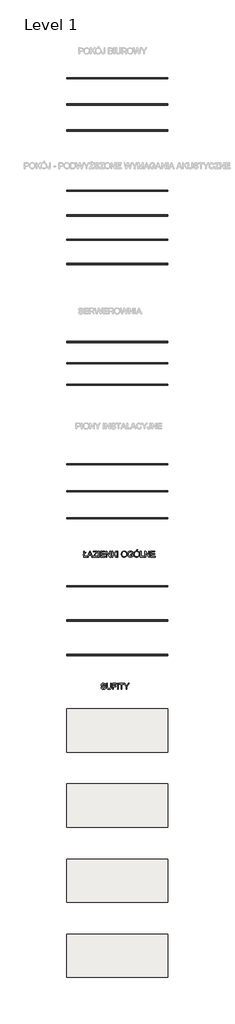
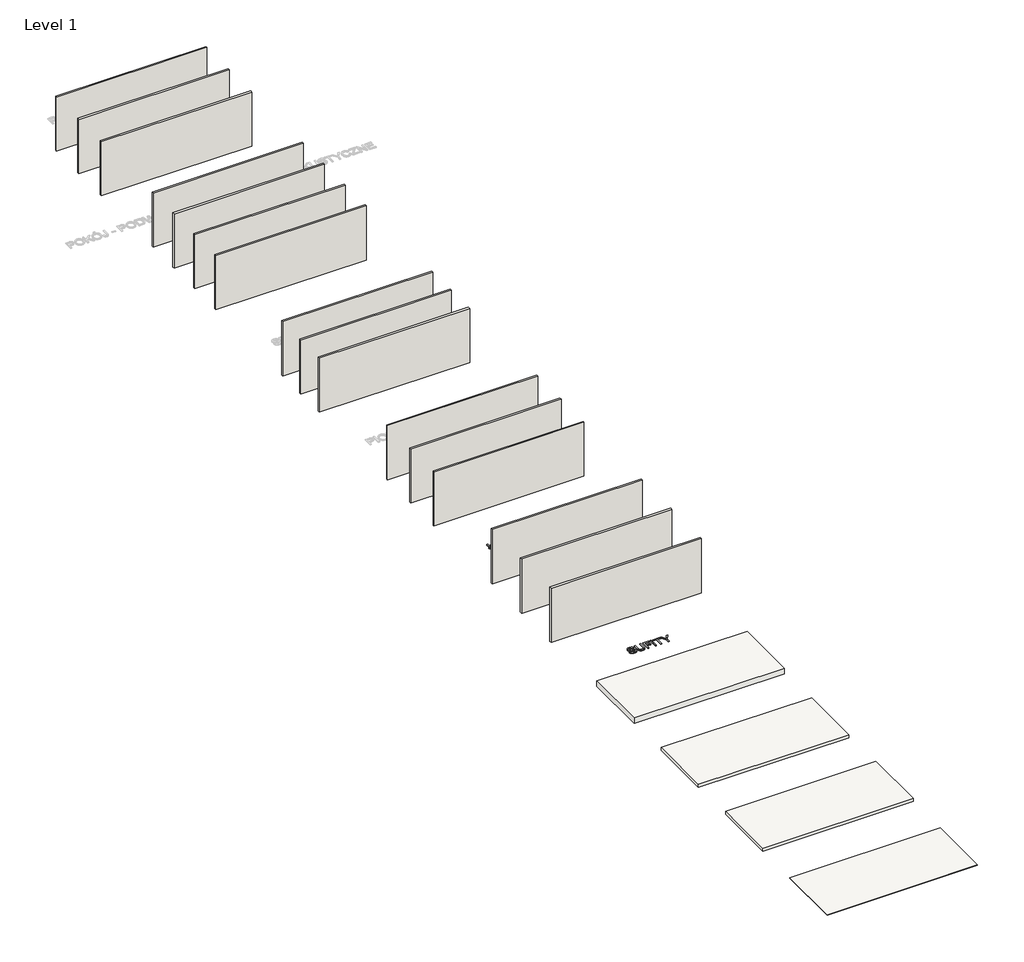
# One storey, part 1 of 4: 16 walls, 4 coverings, 2 proxies.
"""IFC4 building model written with IfcOpenShell, lengths in millimetres."""

from ifc_helpers import new_model, si_unit, frame, origin, origin_with_axes, place, context, project, spatial, polyline, outline, extrude, element, save

model = new_model("IFC4")

# Units and contexts
model_context = context("Model", 3, world=origin())
ifc_project = project(units=[si_unit("LENGTHUNIT", "METRE", prefix="MILLI")], contexts=[model_context])

# Site, building, storey
site = spatial("IfcSite", under=ifc_project)
building = spatial("IfcBuilding", under=site)
storey = spatial("IfcBuildingStorey", under=building, Name="Level 1", Elevation=0.0)

# Proxies
placement = place(None, origin())
element("IfcBuildingElementProxy", 1, Name="600mm Arial", ObjectType="600mm Arial", at=placement, inside=storey, context=model_context, shape_type="SweptSolid", body=[
    extrude(outline(polyline([(-1005.5162007, -41777.1640933), (-1071.4406543, -41832.052087), (-1071.4406543, -41756.7098544), (-1005.5162007, -41701.8218607), (-1005.5162007, -41412.9609181), (-930.1739681, -41412.9609181), (-930.1739681, -41638.987616), (-788.907282, -41521.2653775), (-788.907282, -41596.6076101), (-930.1739681, -41714.3298486), (-930.1739681, -41940.3565464), (-628.8050377, -41940.3565464), (-628.8050377, -42015.698779), (-1005.5162007, -42015.698779), (-1005.5162007, -41777.1640933)])), origin_with_axes(), (0.0, 0.0, 1.0), 50.0),
    extrude(outline(polyline([(-623.6546897, -42015.698779), (-383.0598649, -41412.9609181), (-318.9012449, -41412.9609181), (-78.3064201, -42015.698779), (-157.9160838, -42015.698779), (-226.9307461, -41827.3431975), (-475.1775165, -41827.3431975), (-544.045026, -42015.698779), (-623.6546897, -42015.698779)]), holes=[polyline([(-447.5127904, -41752.0009649), (-254.4483194, -41752.0009649), (-308.7477019, -41603.8180972), (-350.9805549, -41488.3031507), (-388.5045184, -41590.868651), (-447.5127904, -41752.0009649)])]), origin_with_axes(), (0.0, 0.0, 1.0), 50.0),
    extrude(outline(polyline([(-44.9027349, -42015.698779), (-44.9027349, -41937.5606432), (263.382377, -41560.1137162), (321.9491907, -41488.3031507), (-7.2316186, -41488.3031507), (-7.2316186, -41412.9609181), (416.5684398, -41412.9609181), (416.5684398, -41488.3031507), (79.1470739, -41901.3610549), (47.3620695, -41940.3565464), (425.9862189, -41940.3565464), (425.9862189, -42015.698779), (-44.9027349, -42015.698779)])), origin_with_axes(), (0.0, 0.0, 1.0), 50.0),
    extrude(outline(polyline([(520.1640097, -42015.698779), (520.1640097, -41412.9609181), (595.5062423, -41412.9609181), (595.5062423, -42015.698779), (520.1640097, -42015.698779)])), origin_with_axes(), (0.0, 0.0, 1.0), 50.0),
    extrude(outline(polyline([(746.1907075, -42015.698779), (746.1907075, -41412.9609181), (1179.408545, -41412.9609181), (1179.408545, -41488.3031507), (821.5329401, -41488.3031507), (821.5329401, -41667.2409532), (1160.5729869, -41667.2409532), (1160.5729869, -41742.5831858), (821.5329401, -41742.5831858), (821.5329401, -41940.3565464), (1188.8263241, -41940.3565464), (1188.8263241, -42015.698779), (746.1907075, -42015.698779)])), origin_with_axes(), (0.0, 0.0, 1.0), 50.0),
    extrude(outline(polyline([(1301.839673, -42015.698779), (1301.839673, -41412.9609181), (1382.4794064, -41412.9609181), (1697.3863942, -41890.4717479), (1697.3863942, -41412.9609181), (1772.7286269, -41412.9609181), (1772.7286269, -42015.698779), (1692.0888935, -42015.698779), (1377.1819056, -41538.0407965), (1377.1819056, -42015.698779), (1301.839673, -42015.698779)])), origin_with_axes(), (0.0, 0.0, 1.0), 50.0),
    extrude(outline(polyline([(1904.5775339, -42015.698779), (1904.5775339, -41412.9609181), (1979.9197665, -41412.9609181), (1979.9197665, -41708.0022782), (2288.9406425, -41412.9609181), (2394.3020459, -41412.9609181), (2134.8716629, -41660.7662301), (2403.719825, -42015.698779), (2311.6021734, -42015.698779), (2081.4551972, -41711.6810982), (1979.9197665, -41808.5076393), (1979.9197665, -42015.698779), (1904.5775339, -42015.698779)])), origin_with_axes(), (0.0, 0.0, 1.0), 50.0),
    extrude(outline(polyline([(2469.6442785, -42015.698779), (2469.6442785, -41412.9609181), (2544.9865111, -41412.9609181), (2544.9865111, -42015.698779), (2469.6442785, -42015.698779)])), origin_with_axes(), (0.0, 0.0, 1.0), 50.0),
    extrude(outline(polyline([(2902.862116, -41722.2760997), (2907.8837053, -41651.5783772), (2922.948473, -41588.9924528), (2948.0564191, -41534.5183264), (2964.3765842, -41510.3231874), (2983.2075438, -41488.1559979), (3026.2957225, -41451.1378722), (3075.2148308, -41424.6963538), (3129.9648687, -41408.8314427), (3190.5458363, -41403.543139), (3231.0956292, -41406.0263425), (3269.603677, -41413.4759529), (3306.0699798, -41425.8919702), (3340.4945375, -41443.2743945), (3371.9116599, -41465.0989939), (3399.3556567, -41490.8415365), (3422.826528, -41520.5020224), (3442.3242738, -41554.0804515), (3457.6465589, -41590.8134687), (3468.5910482, -41629.9377189), (3475.1577418, -41671.453202), (3477.3466397, -41715.3599182), (3475.0427787, -41759.8460484), (3468.1311957, -41801.9225516), (3456.6118908, -41841.5894277), (3440.4848638, -41878.8466768), (3420.1317924, -41912.7102145), (3395.9343542, -41942.1959564), (3367.8925491, -41967.3039025), (3336.0063772, -41988.034053), (3301.5312357, -42004.257649), (3265.722522, -42015.8459318), (3228.580236, -42022.7989015), (3190.1043779, -42025.1165581), (3148.8464121, -42022.5551797), (3109.8325265, -42014.8710445), (3073.0627211, -42002.0641526), (3038.5369959, -41984.1345038), (3007.1566617, -41961.7764756), (2979.8230294, -41935.6844451), (2956.5360991, -41905.8584123), (2937.2958708, -41872.2983773), (2922.2311031, -41836.3517078), (2911.4705547, -41799.3657718), (2905.0142257, -41761.340569), (2902.862116, -41722.2760997)]), holes=[polyline([(2978.2043486, -41723.0118637), (2981.9705406, -41772.9610415), (2993.2691164, -41817.300019), (3012.100076, -41856.0287961), (3038.4634195, -41889.1473727), (3070.5105398, -41915.6716645), (3106.3928299, -41934.6175873), (3146.1102898, -41945.9851409), (3189.6629195, -41949.7743255), (3233.9605102, -41945.9483527), (3274.1470197, -41934.4704345), (3310.2224478, -41915.3405707), (3342.1867947, -41888.5587615), (3368.3570001, -41854.7412091), (3387.050004, -41814.5041159), (3398.2658063, -41767.8474818), (3402.0044071, -41714.771307), (3400.4041204, -41680.291567), (3395.6032604, -41648.0743012), (3387.601827, -41618.1195098), (3376.3998202, -41590.4271926), (3362.1214003, -41565.3606331), (3344.8907273, -41543.2831149), (3324.7078014, -41524.1946379), (3301.5726224, -41508.0952021), (3276.2025603, -41495.3159013), (3249.314985, -41486.1878293), (3220.9098964, -41480.7109861), (3190.9872947, -41478.8853717), (3148.9475797, -41482.4032432), (3109.9428911, -41492.956858), (3073.973229, -41510.5462159), (3041.0385934, -41535.1713169), (3013.5486113, -41568.0185806), (2993.9129098, -41610.2744262), (2982.1314889, -41661.9388539), (2978.2043486, -41723.0118637)])]), origin_with_axes(), (0.0, 0.0, 1.0), 50.0),
    extrude(outline(polyline([(3863.4755818, -41780.2543021), (3863.4755818, -41704.9120695), (4108.3378378, -41704.9120695), (4108.3378378, -41930.2030033), (4048.8329251, -41971.5897278), (3987.4518142, -42001.2778048), (3924.3416579, -42019.1568698), (3859.6496091, -42025.1165581), (3816.3728909, -42022.7483177), (3775.1287207, -42015.6435967), (3735.9170985, -42003.802395), (3698.7380244, -41987.2247126), (3664.7917133, -41966.1588698), (3635.2783802, -41940.8531871), (3610.1980252, -41911.3076644), (3589.5506482, -41877.5223016), (3573.4236213, -41840.5777523), (3561.9043163, -41801.5546696), (3554.9927333, -41760.4530537), (3552.6888723, -41717.2729045), (3554.9835363, -41674.0881568), (3561.8675281, -41632.3841341), (3573.3408478, -41592.1608365), (3589.4034954, -41553.4182639), (3609.7703624, -41517.8578705), (3634.1563401, -41487.1811106), (3662.5614287, -41461.3879843), (3694.9856281, -41440.4784914), (3730.7253639, -41424.3192747), (3769.0770619, -41412.7769771), (3810.040722, -41405.8515986), (3853.6163444, -41403.543139), (3915.678037, -41408.8958221), (3971.4857356, -41424.9538712), (3996.4051423, -41436.7077009), (4018.4826605, -41450.558458), (4037.7182903, -41466.5061425), (4054.1120317, -41484.5507544), (4080.4707767, -41528.5678351), (4099.6558227, -41584.2467751), (4030.1997021, -41603.8180972), (4014.693476, -41564.1052358), (3995.8395237, -41534.1412473), (3970.8971244, -41511.5532928), (3937.1255573, -41493.9685335), (3896.8608729, -41482.6561621), (3852.439122, -41478.8853717), (3800.439002, -41482.9504677), (3755.9804629, -41495.1457558), (3719.2290515, -41513.9445258), (3690.3503149, -41537.8200673), (3668.1854247, -41565.5399756), (3651.5755526, -41595.8718461), (3633.9172169, -41652.7464026), (3628.0311049, -41714.1826958), (3629.801537, -41751.8032283), (3635.1128333, -41786.2323845), (3643.9649938, -41817.4701644), (3656.3580186, -41845.516568), (3672.1309591, -41870.2658293), (3691.1228671, -41891.612182), (3713.3337426, -41909.5556264), (3738.7635855, -41924.0961622), (3766.2213779, -41935.3303586), (3794.5161018, -41943.3547847), (3823.6477573, -41948.1694403), (3853.6163444, -41949.7743255), (3905.8004054, -41944.9366772), (3956.6968794, -41930.4237325), (4000.8979011, -41910.4293461), (4032.9956052, -41889.1473727), (4032.9956052, -41780.2543021), (3863.4755818, -41780.2543021)])), origin_with_axes(), (0.0, 0.0, 1.0), 50.0),
    extrude(outline(polyline([(4202.5156286, -41722.2760997), (4207.5372178, -41651.5783772), (4222.6019855, -41588.9924528), (4247.7099317, -41534.5183264), (4264.0300967, -41510.3231874), (4282.8610563, -41488.1559979), (4325.949235, -41451.1378722), (4374.8683433, -41424.6963538), (4429.6183813, -41408.8314427), (4490.1993488, -41403.543139), (4530.7491417, -41406.0263425), (4569.2571896, -41413.4759529), (4605.7234924, -41425.8919702), (4640.1480501, -41443.2743945), (4671.5651724, -41465.0989939), (4699.0091693, -41490.8415365), (4722.4800406, -41520.5020224), (4741.9777863, -41554.0804515), (4757.3000714, -41590.8134687), (4768.2445608, -41629.9377189), (4774.8112544, -41671.453202), (4777.0001523, -41715.3599182), (4774.6962913, -41759.8460484), (4767.7847083, -41801.9225516), (4756.2654033, -41841.5894277), (4740.1383763, -41878.8466768), (4719.785305, -41912.7102145), (4695.5878667, -41942.1959564), (4667.5460617, -41967.3039025), (4635.6598897, -41988.034053), (4601.1847482, -42004.257649), (4565.3760345, -42015.8459318), (4528.2337486, -42022.7989015), (4489.7578904, -42025.1165581), (4448.4999247, -42022.5551797), (4409.4860391, -42014.8710445), (4372.7162337, -42002.0641526), (4338.1905084, -41984.1345038), (4306.8101742, -41961.7764756), (4279.476542, -41935.6844451), (4256.1896117, -41905.8584123), (4236.9493833, -41872.2983773), (4221.8846156, -41836.3517078), (4211.1240673, -41799.3657718), (4204.6677383, -41761.340569), (4202.5156286, -41722.2760997)]), holes=[polyline([(4277.8578612, -41723.0118637), (4281.6240531, -41772.9610415), (4292.9226289, -41817.300019), (4311.7535885, -41856.0287961), (4338.116932, -41889.1473727), (4370.1640523, -41915.6716645), (4406.0463424, -41934.6175873), (4445.7638023, -41945.9851409), (4489.316432, -41949.7743255), (4533.6140228, -41945.9483527), (4573.8005322, -41934.4704345), (4609.8759604, -41915.3405707), (4641.8403072, -41888.5587615), (4668.0105127, -41854.7412091), (4686.7035166, -41814.5041159), (4697.9193189, -41767.8474818), (4701.6579197, -41714.771307), (4700.057633, -41680.291567), (4695.2567729, -41648.0743012), (4687.2553395, -41618.1195098), (4676.0533328, -41590.4271926), (4661.7749129, -41565.3606331), (4644.5442399, -41543.2831149), (4624.3613139, -41524.1946379), (4601.226135, -41508.0952021), (4575.8560729, -41495.3159013), (4548.9684976, -41486.1878293), (4520.563409, -41480.7109861), (4490.6408072, -41478.8853717), (4448.6010922, -41482.4032432), (4409.5964037, -41492.956858), (4373.6267416, -41510.5462159), (4340.692106, -41535.1713169), (4313.2021239, -41568.0185806), (4293.5664224, -41610.2744262), (4281.7850015, -41661.9388539), (4277.8578612, -41723.0118637)])]), origin_with_axes(), (0.0, 0.0, 1.0), 50.0),
    extrude(outline(polyline([(4437.9601055, -41375.2898018), (4494.46678, -41262.2764529), (4588.6445707, -41262.2764529), (4494.46678, -41375.2898018), (4437.9601055, -41375.2898018)])), origin_with_axes(), (0.0, 0.0, 1.0), 50.0),
    extrude(outline(polyline([(4880.5957221, -42015.698779), (4880.5957221, -41412.9609181), (4955.9379547, -41412.9609181), (4955.9379547, -41940.3565464), (5257.3068852, -41940.3565464), (5257.3068852, -42015.698779), (4880.5957221, -42015.698779)])), origin_with_axes(), (0.0, 0.0, 1.0), 50.0),
    extrude(outline(polyline([(5342.0668969, -42015.698779), (5342.0668969, -41412.9609181), (5422.7066302, -41412.9609181), (5737.6136181, -41890.4717479), (5737.6136181, -41412.9609181), (5812.9558507, -41412.9609181), (5812.9558507, -42015.698779), (5732.3161173, -42015.698779), (5417.4091295, -41538.0407965), (5417.4091295, -42015.698779), (5342.0668969, -42015.698779)])), origin_with_axes(), (0.0, 0.0, 1.0), 50.0),
    extrude(outline(polyline([(5944.8047578, -42015.698779), (5944.8047578, -41412.9609181), (6378.0225953, -41412.9609181), (6378.0225953, -41488.3031507), (6020.1469904, -41488.3031507), (6020.1469904, -41667.2409532), (6359.1870371, -41667.2409532), (6359.1870371, -41742.5831858), (6020.1469904, -41742.5831858), (6020.1469904, -41940.3565464), (6387.4403744, -41940.3565464), (6387.4403744, -42015.698779), (5944.8047578, -42015.698779)])), origin_with_axes(), (0.0, 0.0, 1.0), 50.0),
])
element("IfcBuildingElementProxy", 2, Name="600mm Arial", ObjectType="600mm Arial", at=placement, inside=storey, context=model_context, shape_type="SweptSolid", body=[
    extrude(outline(polyline([(791.1401121, -55524.2193168), (866.4823447, -55524.2193168), (875.1275716, -55566.0291055), (890.7625564, -55599.6351258), (915.1531327, -55626.3065704), (950.065134, -55647.3126324), (992.7394455, -55660.9426603), (1040.4169521, -55665.4860029), (1082.3922877, -55662.0463063), (1119.143699, -55651.7272163), (1148.9237465, -55635.3932557), (1169.9849908, -55613.9089472), (1182.5113727, -55589.2424594), (1186.6868333, -55563.3619611), (1183.5598364, -55538.1436503), (1174.1788455, -55516.3466421), (1155.1225582, -55497.7502072), (1122.9696718, -55482.1336165), (1013.2672608, -55453.3652445), (941.2543603, -55434.3273513), (895.1771404, -55416.209163), (857.671571, -55390.8620935), (831.0920968, -55360.1439469), (815.2547769, -55324.7169108), (809.9756703, -55285.2431727), (811.6081466, -55262.8069695), (816.5055757, -55241.1157274), (824.6679575, -55220.1694463), (836.0952919, -55199.9681262), (850.6588204, -55181.3349032), (868.2297842, -55165.0929131), (888.8081833, -55151.242156), (912.3940177, -55139.7826318), (965.4058132, -55124.3867703), (1024.0829915, -55119.2548165), (1087.6530002, -55124.6258936), (1143.2767579, -55140.739125), (1167.6121519, -55152.7412751), (1188.9677017, -55167.2634169), (1207.3434074, -55184.3055503), (1222.7392689, -55203.8676754), (1235.0357246, -55225.379575), (1244.1132128, -55248.2710322), (1249.9717336, -55272.5420468), (1252.6112869, -55298.1926189), (1177.2690543, -55298.1926189), (1172.2290709, -55274.1515306), (1163.4366912, -55253.2374391), (1150.8919152, -55235.4503447), (1134.5947428, -55220.7902472), (1114.2416714, -55209.330723), (1089.5291984, -55201.1453486), (1060.4573237, -55196.234124), (1027.0260474, -55194.5970491), (992.5279133, -55196.2157299), (963.0513685, -55201.0717722), (938.5964128, -55209.1651761), (919.1630464, -55220.4959416), (904.3557961, -55234.1167724), (893.7791888, -55249.0803726), (887.4332244, -55265.386742), (885.3179029, -55283.0358807), (886.817022, -55298.2202101), (891.3143794, -55311.9881938), (898.8099751, -55324.3398318), (909.303809, -55335.2751241), (925.8217106, -55345.6310022), (951.8309676, -55356.097245), (1032.3235482, -55377.3608243), (1115.3913027, -55397.5575458), (1165.6439832, -55415.1790934), (1208.5942062, -55442.5127257), (1225.1994797, -55458.5799718), (1238.5581947, -55476.2475046), (1248.8267008, -55495.4233536), (1256.1613481, -55516.0155483), (1262.029066, -55561.4489747), (1260.3414073, -55585.016415), (1255.2784313, -55607.8940766), (1246.8401381, -55630.0819594), (1235.0265275, -55651.5800635), (1220.0445333, -55671.5560558), (1202.1010889, -55689.1776034), (1181.1961946, -55704.4447062), (1157.3298501, -55717.3573642), (1131.1964329, -55727.6258704), (1103.4903201, -55734.9605177), (1043.360008, -55740.8282355), (1004.8197705, -55739.246343), (969.5444857, -55734.5006652), (937.5341536, -55726.5912023), (908.7887742, -55715.5179543), (883.1336035, -55701.262527), (860.3938977, -55683.8065263), (840.5696567, -55663.1499523), (823.6608805, -55639.2928049), (810.0400496, -55613.0076363), (800.0796446, -55585.0669988), (793.7796654, -55555.4708923), (791.1401121, -55524.2193168)])), origin_with_axes(), (0.0, 0.0, 1.0), 50.0),
    extrude(outline(polyline([(1770.5891361, -55128.6725956), (1845.9313687, -55128.6725956), (1845.9313687, -55476.3946574), (1840.817809, -55557.825337), (1834.4258593, -55591.5187293), (1825.4771298, -55620.5308231), (1813.1990682, -55645.960666), (1796.8191223, -55668.9073055), (1776.3372923, -55689.3707415), (1751.7535779, -55707.350974), (1723.0403882, -55721.9972759), (1690.1701319, -55732.4589202), (1653.1428091, -55738.7359067), (1611.9584198, -55740.8282355), (1571.7903044, -55739.0072197), (1535.4573589, -55733.544172), (1502.9595831, -55724.4390927), (1474.2969772, -55711.6919815), (1449.4649425, -55695.4913782), (1428.4588806, -55676.0258221), (1411.2787914, -55653.2953133), (1397.924675, -55627.2998518), (1387.9136862, -55597.1473238), (1380.7629799, -55561.9456154), (1376.4725561, -55521.6947266), (1375.0424149, -55476.3946574), (1375.0424149, -55128.6725956), (1450.3846475, -55128.6725956), (1450.3846475, -55473.745907), (1454.1002556, -55541.4545883), (1465.2470801, -55588.5986659), (1474.0118686, -55605.9764917), (1485.4438016, -55621.248193), (1499.5428791, -55634.4137699), (1516.309101, -55645.4732224), (1556.5553913, -55660.4828078), (1604.8950855, -55665.4860029), (1646.4197657, -55663.0119965), (1681.5249051, -55655.5899773), (1710.2105036, -55643.2199452), (1732.4765614, -55625.9019002), (1749.1508128, -55601.5481122), (1761.0609924, -55568.0708506), (1768.2071002, -55525.4701156), (1770.5891361, -55473.745907), (1770.5891361, -55128.6725956)])), origin_with_axes(), (0.0, 0.0, 1.0), 50.0),
    extrude(outline(polyline([(1977.7802758, -55731.4104565), (1977.7802758, -55128.6725956), (2382.7447761, -55128.6725956), (2382.7447761, -55204.0148282), (2053.1225084, -55204.0148282), (2053.1225084, -55382.9526306), (2335.6558807, -55382.9526306), (2335.6558807, -55458.2948632), (2053.1225084, -55458.2948632), (2053.1225084, -55731.4104565), (1977.7802758, -55731.4104565)])), origin_with_axes(), (0.0, 0.0, 1.0), 50.0),
    extrude(outline(polyline([(2495.758125, -55731.4104565), (2495.758125, -55128.6725956), (2571.1003576, -55128.6725956), (2571.1003576, -55731.4104565), (2495.758125, -55731.4104565)])), origin_with_axes(), (0.0, 0.0, 1.0), 50.0),
    extrude(outline(polyline([(2872.469288, -55731.4104565), (2872.469288, -55204.0148282), (2674.6959274, -55204.0148282), (2674.6959274, -55128.6725956), (3145.5848813, -55128.6725956), (3145.5848813, -55204.0148282), (2947.8115206, -55204.0148282), (2947.8115206, -55731.4104565), (2872.469288, -55731.4104565)])), origin_with_axes(), (0.0, 0.0, 1.0), 50.0),
    extrude(outline(polyline([(3399.8649163, -55731.4104565), (3399.8649163, -55476.1003518), (3164.4204394, -55128.6725956), (3253.3007294, -55128.6725956), (3378.969219, -55314.2322739), (3443.2749918, -55408.8515231), (3507.7279173, -55307.4632452), (3621.7713358, -55128.6725956), (3710.6516258, -55128.6725956), (3475.2071489, -55476.1003518), (3475.2071489, -55731.4104565), (3399.8649163, -55731.4104565)])), origin_with_axes(), (0.0, 0.0, 1.0), 50.0),
])

# Coverings
element("IfcCovering", 3, ObjectType="Nida Sufit DK/WO/CD60-12,5/SonicC12n0", at=placement, inside=storey, context=model_context, shape_type="SweptSolid", body=[
    extrude(outline(polyline([(7731.5007037, -57779.3575936), (7731.5007037, -62279.3575936), (-2768.4992963, -62279.3575936), (-2768.4992963, -57779.3575936), (7731.5007037, -57779.3575936)])), frame((0.0, 0.0, 100.0), z_axis=(0.0, 0.0, 1.0), x_axis=(1.0, 0.0, 0.0)), (0.0, 0.0, 1.0), 400.0),
])
element("IfcCovering", 4, ObjectType="Nida Sufit DK/WO/CD60-12,5/Expert", at=placement, inside=storey, context=model_context, shape_type="SweptSolid", body=[
    extrude(outline(polyline([(7731.5007037, -65567.3604116), (7731.5007037, -70067.3604116), (-2768.4992963, -70067.3604116), (-2768.4992963, -65567.3604116), (7731.5007037, -65567.3604116)])), frame((0.0, 0.0, 100.0), z_axis=(0.0, 0.0, 1.0), x_axis=(1.0, 0.0, 0.0)), (0.0, 0.0, 1.0), 222.5),
])
element("IfcCovering", 5, ObjectType="Nida Sufit DK/WO/CD60-25/Expert", at=placement, inside=storey, context=model_context, shape_type="SweptSolid", body=[
    extrude(outline(polyline([(7731.5007037, -73355.3632297), (7731.5007037, -77855.3632297), (-2768.4992963, -77855.3632297), (-2768.4992963, -73355.3632297), (7731.5007037, -73355.3632297)])), frame((0.0, 0.0, 100.0), z_axis=(0.0, 0.0, 1.0), x_axis=(1.0, 0.0, 0.0)), (0.0, 0.0, 1.0), 235.0),
])
element("IfcCovering", 6, ObjectType="NIDA Sufit C50/U50/500-25/Expert", at=placement, inside=storey, context=model_context, shape_type="SweptSolid", body=[
    extrude(outline(polyline([(7731.5007037, -81143.3660477), (7731.5007037, -85643.3660477), (-2768.4992963, -85643.3660477), (-2768.4992963, -81143.3660477), (7731.5007037, -81143.3660477)])), frame((0.0, 0.0, 100.0), z_axis=(0.0, 0.0, 1.0), x_axis=(1.0, 0.0, 0.0)), (0.0, 0.0, 1.0), 50.0),
])

# Walls
element("IfcWall", 7, ObjectType="Nida Ściana 100A50/Expert+Cicha", at=placement, inside=storey, context=model_context, shape_type="SweptSolid", body=[
    extrude(outline(polyline([(7731.5007037, 7614.6593754), (-2768.4992963, 7614.6593754), (-2768.4992963, 7714.6593754), (7731.5007037, 7714.6593754), (7731.5007037, 7614.6593754)])), origin_with_axes(), (0.0, 0.0, 1.0), 4000.0),
])
element("IfcWall", 8, ObjectType="Nida Ściana 150A100/Expert", at=placement, inside=storey, context=model_context, shape_type="SweptSolid", body=[
    extrude(outline(polyline([(7731.5007037, 4877.1593754), (-2768.4992963, 4877.1593754), (-2768.4992963, 5027.1593754), (7731.5007037, 5027.1593754), (7731.5007037, 4877.1593754)])), origin_with_axes(), (0.0, 0.0, 1.0), 4000.0),
])
element("IfcWall", 9, ObjectType="Nida Ściana 125A75/Expert", at=placement, inside=storey, context=model_context, shape_type="SweptSolid", body=[
    extrude(outline(polyline([(7731.5007037, 2177.1593754), (-2768.4992963, 2177.1593754), (-2768.4992963, 2302.1593754), (7731.5007037, 2302.1593754), (7731.5007037, 2177.1593754)])), origin_with_axes(), (0.0, 0.0, 1.0), 4000.0),
])
element("IfcWall", 10, ObjectType="Nida Ściana 125A75/Expert+Cicha", at=placement, inside=storey, context=model_context, shape_type="SweptSolid", body=[
    extrude(outline(polyline([(7731.5007037, -4085.3406246), (-2768.4992963, -4085.3406246), (-2768.4992963, -3960.3406246), (7731.5007037, -3960.3406246), (7731.5007037, -4085.3406246)])), origin_with_axes(), (0.0, 0.0, 1.0), 4000.0),
])
element("IfcWall", 11, ObjectType="Nida Ściana 155BB50/Expert", at=placement, inside=storey, context=model_context, shape_type="SweptSolid", body=[
    extrude(outline(polyline([(7731.5007037, -6634.5072913), (-2768.4992963, -6634.5072913), (-2768.4992963, -6479.5072913), (7731.5007037, -6479.5072913), (7731.5007037, -6634.5072913)])), origin_with_axes(), (0.0, 0.0, 1.0), 4000.0),
])
element("IfcWall", 12, ObjectType="Nida Ściana 125A75/Cicha", at=placement, inside=storey, context=model_context, shape_type="SweptSolid", body=[
    extrude(outline(polyline([(7731.5007037, -9153.6739579), (-2768.4992963, -9153.6739579), (-2768.4992963, -9028.6739579), (7731.5007037, -9028.6739579), (7731.5007037, -9153.6739579)])), origin_with_axes(), (0.0, 0.0, 1.0), 4000.0),
])
element("IfcWall", 13, ObjectType="Nida Ściana 150A100/Expert", at=placement, inside=storey, context=model_context, shape_type="SweptSolid", body=[
    extrude(outline(polyline([(7731.5007037, -11700.3406246), (-2768.4992963, -11700.3406246), (-2768.4992963, -11550.3406246), (7731.5007037, -11550.3406246), (7731.5007037, -11700.3406246)])), origin_with_axes(), (0.0, 0.0, 1.0), 4000.0),
])
element("IfcWall", 14, ObjectType="Nida Ściana 125AA75/Resistex", at=placement, inside=storey, context=model_context, shape_type="SweptSolid", body=[
    extrude(outline(polyline([(7731.5007037, -19762.8406246), (-2768.4992963, -19762.8406246), (-2768.4992963, -19637.8406246), (7731.5007037, -19637.8406246), (7731.5007037, -19762.8406246)])), origin_with_axes(), (0.0, 0.0, 1.0), 4000.0),
])
element("IfcWall", 15, ObjectType="Nida Ściana 125A75/Resistex", at=placement, inside=storey, context=model_context, shape_type="SweptSolid", body=[
    extrude(outline(polyline([(7731.5007037, -21975.3406246), (-2768.4992963, -21975.3406246), (-2768.4992963, -21850.3406246), (7731.5007037, -21850.3406246), (7731.5007037, -21975.3406246)])), origin_with_axes(), (0.0, 0.0, 1.0), 4000.0),
])
element("IfcWall", 16, ObjectType="Nida Ściana 125A75/Expert+Resistex", at=placement, inside=storey, context=model_context, shape_type="SweptSolid", body=[
    extrude(outline(polyline([(7731.5007037, -24187.8406246), (-2768.4992963, -24187.8406246), (-2768.4992963, -24062.8406246), (7731.5007037, -24062.8406246), (7731.5007037, -24187.8406246)])), origin_with_axes(), (0.0, 0.0, 1.0), 4000.0),
])
element("IfcWall", 17, ObjectType="Nida Szacht 95A50/Ogień+", at=placement, inside=storey, context=model_context, shape_type="SweptSolid", body=[
    extrude(outline(polyline([(7731.5007037, -32435.3406246), (-2768.4992963, -32435.3406246), (-2768.4992963, -32340.3406246), (7731.5007037, -32340.3406246), (7731.5007037, -32435.3406246)])), origin_with_axes(), (0.0, 0.0, 1.0), 4000.0),
])
element("IfcWall", 18, ObjectType="Nida Szacht 130UU100/Hydro", at=placement, inside=storey, context=model_context, shape_type="SweptSolid", body=[
    extrude(outline(polyline([(7731.5007037, -35258.9644541), (-2768.4992963, -35258.9644541), (-2768.4992963, -35128.9644541), (7731.5007037, -35128.9644541), (7731.5007037, -35258.9644541)])), origin_with_axes(), (0.0, 0.0, 1.0), 4000.0),
])
element("IfcWall", 19, ObjectType="Nida Szacht 77,5A75/Ogień+", at=placement, inside=storey, context=model_context, shape_type="SweptSolid", body=[
    extrude(outline(polyline([(7731.5007037, -38038.8382836), (-2768.4992963, -38038.8382836), (-2768.4992963, -37961.3382836), (7731.5007037, -37961.3382836), (7731.5007037, -38038.8382836)])), origin_with_axes(), (0.0, 0.0, 1.0), 4000.0),
])
element("IfcWall", 20, ObjectType="Nida Ściana 125A75/Woda+Cicha", at=placement, inside=storey, context=model_context, shape_type="SweptSolid", body=[
    extrude(outline(polyline([(7731.5007037, -45101.3382836), (-2768.4992963, -45101.3382836), (-2768.4992963, -44976.3382836), (7731.5007037, -44976.3382836), (7731.5007037, -45101.3382836)])), origin_with_axes(), (0.0, 0.0, 1.0), 4000.0),
])
element("IfcWall", 21, ObjectType="Nida Ściana 150A100/Woda+Cicha", at=placement, inside=storey, context=model_context, shape_type="SweptSolid", body=[
    extrude(outline(polyline([(7731.5007037, -48682.5882836), (-2768.4992963, -48682.5882836), (-2768.4992963, -48532.5882836), (7731.5007037, -48532.5882836), (7731.5007037, -48682.5882836)])), origin_with_axes(), (0.0, 0.0, 1.0), 4000.0),
])
element("IfcWall", 22, ObjectType="Nida Ściana 150C50/Cicha", at=placement, inside=storey, context=model_context, shape_type="SweptSolid", body=[
    extrude(outline(polyline([(7731.5007037, -52253.8382836), (-2768.4992963, -52253.8382836), (-2768.4992963, -52098.8382836), (7731.5007037, -52098.8382836), (7731.5007037, -52253.8382836)])), origin_with_axes(), (0.0, 0.0, 1.0), 4000.0),
])

save(model, "model.ifc")
